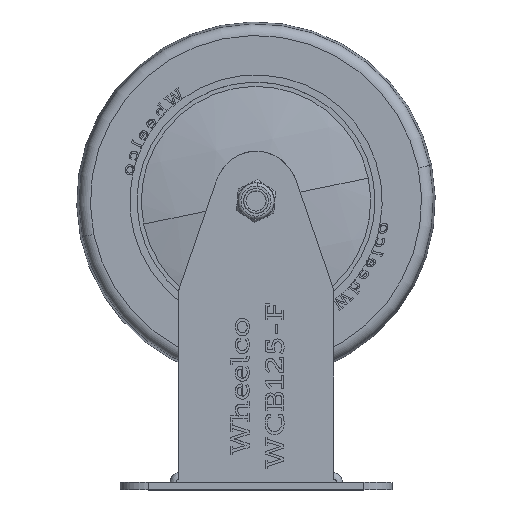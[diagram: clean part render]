
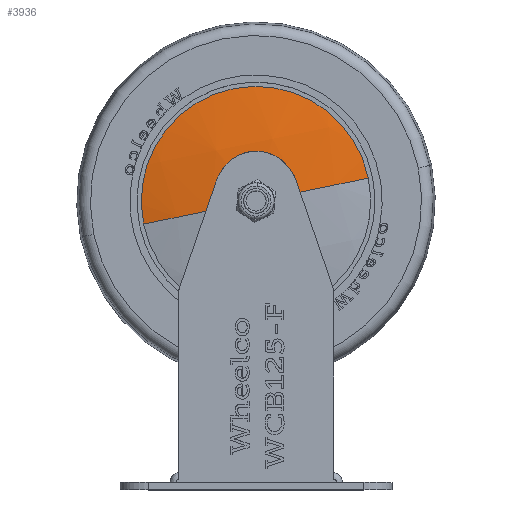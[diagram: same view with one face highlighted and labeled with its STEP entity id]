
A CAD part, top view. The second image highlights one B-rep face of the part: STEP entity #3936.
In plain terms, the highlighted spherical face has radius 202 mm.
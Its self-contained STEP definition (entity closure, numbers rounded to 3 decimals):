
#32 = SPHERICAL_SURFACE ( 'NONE', #48434, 202. ) ;
#1207 = CARTESIAN_POINT ( 'NONE',  ( 182., 0., 0. ) ) ;
#1561 = CARTESIAN_POINT ( 'NONE',  ( -19.96, 0., 0. ) ) ;
#3936 = ADVANCED_FACE ( 'NONE', ( #37503 ), #32, .T. ) ;
#4724 = DIRECTION ( 'NONE',  ( 0., 1., 0. ) ) ;
#5232 = VERTEX_POINT ( 'NONE', #9502 ) ;
#5614 = CARTESIAN_POINT ( 'NONE',  ( 182., 0., 0. ) ) ;
#8492 = CARTESIAN_POINT ( 'NONE',  ( -16., 0., -40. ) ) ;
#9502 = CARTESIAN_POINT ( 'NONE',  ( -16., 0., 40. ) ) ;
#9934 = CIRCLE ( 'NONE', #14758, 40. ) ;
#11269 = ORIENTED_EDGE ( 'NONE', *, *, #30028, .T. ) ;
#13115 = DIRECTION ( 'NONE',  ( 1., 0., 0. ) ) ;
#14614 = DIRECTION ( 'NONE',  ( 0., 1., 0. ) ) ;
#14758 = AXIS2_PLACEMENT_3D ( 'NONE', #25361, #17062, #48523 ) ;
#16817 = EDGE_CURVE ( 'NONE', #30099, #18241, #35692, .T. ) ;
#17062 = DIRECTION ( 'NONE',  ( -1., 0., 0. ) ) ;
#17137 = EDGE_LOOP ( 'NONE', ( #19289, #11269, #48190, #32876 ) ) ;
#17163 = AXIS2_PLACEMENT_3D ( 'NONE', #5614, #21199, #47886 ) ;
#18241 = VERTEX_POINT ( 'NONE', #36219 ) ;
#19289 = ORIENTED_EDGE ( 'NONE', *, *, #28440, .F. ) ;
#19741 = CARTESIAN_POINT ( 'NONE',  ( -19.96, 0., 4. ) ) ;
#21186 = CIRCLE ( 'NONE', #17163, 202. ) ;
#21199 = DIRECTION ( 'NONE',  ( 0., 1., 0. ) ) ;
#24430 = DIRECTION ( 'NONE',  ( 0., 0., -1. ) ) ;
#25361 = CARTESIAN_POINT ( 'NONE',  ( -16., 0., 0. ) ) ;
#28440 = EDGE_CURVE ( 'NONE', #44977, #18241, #21186, .T. ) ;
#30028 = EDGE_CURVE ( 'NONE', #44977, #5232, #9934, .T. ) ;
#30099 = VERTEX_POINT ( 'NONE', #19741 ) ;
#30942 = DIRECTION ( 'NONE',  ( 1., 0., 0. ) ) ;
#31571 = CIRCLE ( 'NONE', #49304, 202. ) ;
#32876 = ORIENTED_EDGE ( 'NONE', *, *, #16817, .T. ) ;
#35692 = CIRCLE ( 'NONE', #42128, 4. ) ;
#36219 = CARTESIAN_POINT ( 'NONE',  ( -19.96, 0., -4. ) ) ;
#37503 = FACE_OUTER_BOUND ( 'NONE', #17137, .T. ) ;
#42128 = AXIS2_PLACEMENT_3D ( 'NONE', #1561, #13115, #24430 ) ;
#42270 = CARTESIAN_POINT ( 'NONE',  ( 182., 0., 0. ) ) ;
#43199 = DIRECTION ( 'NONE',  ( -1., 0., 0. ) ) ;
#44977 = VERTEX_POINT ( 'NONE', #8492 ) ;
#45009 = EDGE_CURVE ( 'NONE', #30099, #5232, #31571, .T. ) ;
#47886 = DIRECTION ( 'NONE',  ( -1., 0., 0. ) ) ;
#48190 = ORIENTED_EDGE ( 'NONE', *, *, #45009, .F. ) ;
#48434 = AXIS2_PLACEMENT_3D ( 'NONE', #42270, #14614, #30942 ) ;
#48523 = DIRECTION ( 'NONE',  ( 0., 0., 1. ) ) ;
#49304 = AXIS2_PLACEMENT_3D ( 'NONE', #1207, #4724, #43199 ) ;
